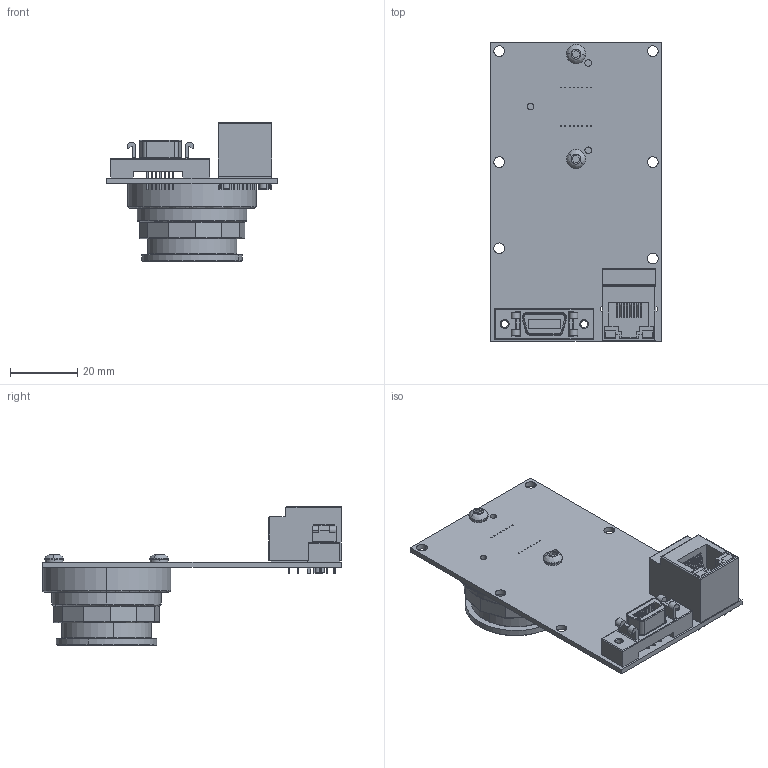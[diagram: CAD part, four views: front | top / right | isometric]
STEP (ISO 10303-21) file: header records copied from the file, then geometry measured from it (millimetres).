
FILE_DESCRIPTION (( 'STEP AP214' ), '1' );
FILE_NAME ('GB650C-V.STEP', '2013-07-31T22:35:22', ( '' ), ( '' ), 'SwSTEP 2.0', 'SolidWorks 2013', '' );
FILE_SCHEMA (( 'AUTOMOTIVE_DESIGN' ));
Length unit declared in the file: millimetre
Products named in the file (19): 140004-LOW COST C-MOUNT CAP; 100097A-IR FILTER ASSEMBLY 0.75 INCH; 440002-IR CUT FILTER 22MM DIA; 110054AB-IR FILTER SUPPORT; 140027-SCREW BUTTON M3x6 SS; GB650C-V; 200082B-GB1380-650-LS-V; 260038-HALO HFJV1-E1G16-L12RL; 110094A-GB CCD GASKET; 260040-3M 10214-6212PC; 200080B-GB1380-650-LS; 210046B-GB1380-650-LS; 110031A-B EC-CCD LOCKING RING; 110078A-GB MOUNT; 220074-SONY ICX424AQ; SONY ICX424 WINDOW; SONY ICX424 BODY; 140008-washer spring lock #4; 110003AC-CV CMOUNT RING
Assembly tree (20 placements, depth 4):
  GB650C-V
    140027-SCREW BUTTON M3x6 SS  x2
    100097A-IR FILTER ASSEMBLY 0.75 INCH
      110054AB-IR FILTER SUPPORT
      440002-IR CUT FILTER 22MM DIA
    140004-LOW COST C-MOUNT CAP
    110003AC-CV CMOUNT RING
    140008-washer spring lock #4  x2
    220074-SONY ICX424AQ
      SONY ICX424 BODY
      SONY ICX424 WINDOW
    110078A-GB MOUNT
    110031A-B EC-CCD LOCKING RING
    200082B-GB1380-650-LS-V
      200080B-GB1380-650-LS
        210046B-GB1380-650-LS
      260040-3M 10214-6212PC
      260038-HALO HFJV1-E1G16-L12RL
    110094A-GB CCD GASKET
Bounding box: 50.8 x 88.9 x 41.33 mm (x, y, z)
Volume: 22114.8 mm3; surface area: 29578.1 mm2
Topology: 16 solids, 16 shells, 1232 faces, 3144 edges, 1997 vertices
Faces by surface type: plane 751, cylinder 269, cone 186, bspline 26
Entity records: 50985 total; most frequent: CARTESIAN_POINT 7179, DIRECTION 6177, ORIENTED_EDGE 6168, EDGE_CURVE 3084, VECTOR 2291, LINE 2291, VERTEX_POINT 1961, AXIS2_PLACEMENT_3D 1943
